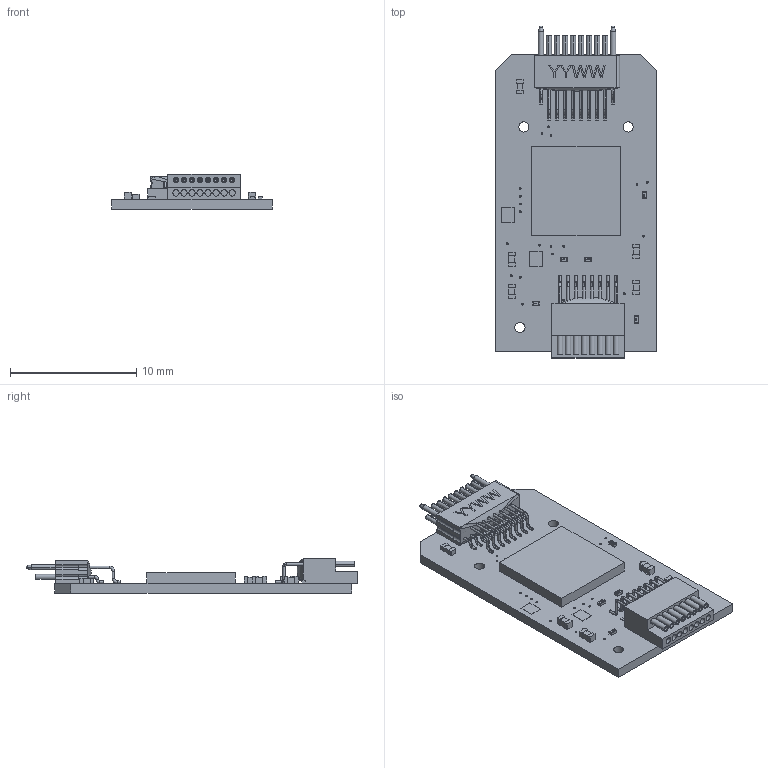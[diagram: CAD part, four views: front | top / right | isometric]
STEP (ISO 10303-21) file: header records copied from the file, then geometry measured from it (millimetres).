
FILE_DESCRIPTION (( 'STEP AP214' ), '1' );
FILE_NAME ('RHS2116_16.STEP', '2022-03-21T18:48:08', ( '' ), ( '' ), 'SwSTEP 2.0', 'SolidWorks 2022', '' );
FILE_SCHEMA (( 'AUTOMOTIVE_DESIGN' ));
Length unit declared in the file: inch
Products named in the file (9): 0402r_1430758; 0201r_0201; A79633-001; RHS2116_16_PCB; smd_pad_1_0_x_1_2; A79041-001; RHS2116_16; 0402c_2320560; QFN_7x7mm
Assembly tree (17 placements, depth 2):
  RHS2116_16
    RHS2116_16_PCB
    0402c_2320560  x4
    0402r_1430758
    0201r_0201  x5
    A79041-001
    A79633-001
    smd_pad_1_0_x_1_2  x3
    QFN_7x7mm
Bounding box: 12.7 x 26.28 x 2.78 mm (x, y, z)
Volume: 310.6 mm3; surface area: 1310.3 mm2
Topology: 31 solids, 32 shells, 1355 faces, 3337 edges, 2114 vertices
Faces by surface type: plane 602, cylinder 404, bspline 215, torus 78, cone 56
Entity records: 37976 total; most frequent: CARTESIAN_POINT 10058, DIRECTION 4608, ORIENTED_EDGE 4434, EDGE_CURVE 2217, AXIS2_PLACEMENT_3D 1772, VERTEX_POINT 1408, EDGE_LOOP 1117, LINE 1064
